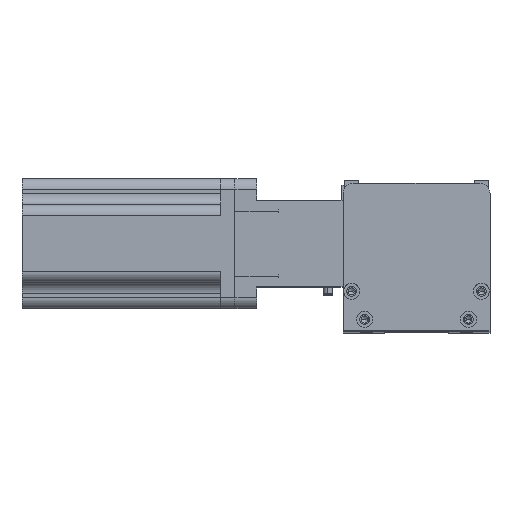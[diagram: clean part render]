
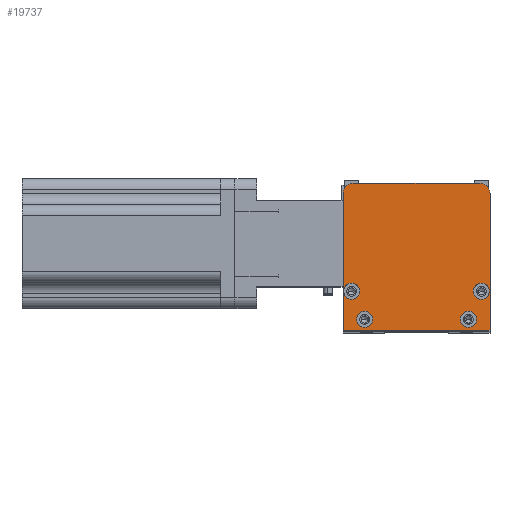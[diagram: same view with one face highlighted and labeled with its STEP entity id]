
A CAD part, top view. The second image highlights one B-rep face of the part: STEP entity #19737.
In plain terms, the highlighted planar face has unit normal (0, 0, 1) as drawn and (0, 0, -1) by its records, which use the part's own axes.
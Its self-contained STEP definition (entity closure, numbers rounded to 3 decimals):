
#205 = DIRECTION ( 'NONE',  ( -1., 0., 0. ) ) ;
#587 = EDGE_CURVE ( 'NONE', #25718, #3399, #11381, .T. ) ;
#795 = CARTESIAN_POINT ( 'NONE',  ( 0., 63., 0. ) ) ;
#893 = FACE_BOUND ( 'NONE', #15598, .T. ) ;
#1105 = EDGE_CURVE ( 'NONE', #3399, #25718, #7124, .T. ) ;
#1286 = CARTESIAN_POINT ( 'NONE',  ( 6.25, 5., 0. ) ) ;
#1416 = DIRECTION ( 'NONE',  ( -1., 0., 0. ) ) ;
#1670 = AXIS2_PLACEMENT_3D ( 'NONE', #5751, #5569, #5480 ) ;
#2336 = ORIENTED_EDGE ( 'NONE', *, *, #18460, .F. ) ;
#3399 = VERTEX_POINT ( 'NONE', #6413 ) ;
#3644 = AXIS2_PLACEMENT_3D ( 'NONE', #9919, #24618, #11991 ) ;
#3916 = EDGE_CURVE ( 'NONE', #13944, #18891, #15738, .T. ) ;
#4350 = ORIENTED_EDGE ( 'NONE', *, *, #587, .F. ) ;
#4739 = CARTESIAN_POINT ( 'NONE',  ( 60.25, 18., 0. ) ) ;
#5122 = VERTEX_POINT ( 'NONE', #8987 ) ;
#5180 = CARTESIAN_POINT ( 'NONE',  ( 5., 63., 0. ) ) ;
#5187 = EDGE_CURVE ( 'NONE', #10837, #14242, #19841, .T. ) ;
#5480 = DIRECTION ( 'NONE',  ( -1., 0., 0. ) ) ;
#5569 = DIRECTION ( 'NONE',  ( 0., 0., -1. ) ) ;
#5751 = CARTESIAN_POINT ( 'NONE',  ( 4., 18., 0. ) ) ;
#6341 = FACE_BOUND ( 'NONE', #22123, .T. ) ;
#6405 = CARTESIAN_POINT ( 'NONE',  ( 61.75, 5., 0. ) ) ;
#6413 = CARTESIAN_POINT ( 'NONE',  ( 7.75, 18., 0. ) ) ;
#6463 = ORIENTED_EDGE ( 'NONE', *, *, #3916, .F. ) ;
#7083 = VERTEX_POINT ( 'NONE', #4739 ) ;
#7098 = PLANE ( 'NONE',  #10493 ) ;
#7124 = CIRCLE ( 'NONE', #1670, 3.75 ) ;
#7279 = DIRECTION ( 'NONE',  ( 1., 0., 0. ) ) ;
#8094 = CARTESIAN_POINT ( 'NONE',  ( 58., 5., 0. ) ) ;
#8987 = CARTESIAN_POINT ( 'NONE',  ( 54.25, 5., 0. ) ) ;
#9181 = CARTESIAN_POINT ( 'NONE',  ( 0., 0., 0. ) ) ;
#9363 = CARTESIAN_POINT ( 'NONE',  ( 68., 0., 0. ) ) ;
#9413 = CARTESIAN_POINT ( 'NONE',  ( 64., 18., 0. ) ) ;
#9620 = CARTESIAN_POINT ( 'NONE',  ( 0., 0., 0. ) ) ;
#9825 = VERTEX_POINT ( 'NONE', #11536 ) ;
#9919 = CARTESIAN_POINT ( 'NONE',  ( 10., 5., 0. ) ) ;
#10175 = DIRECTION ( 'NONE',  ( -1., 0., 0. ) ) ;
#10310 = ORIENTED_EDGE ( 'NONE', *, *, #14151, .F. ) ;
#10314 = AXIS2_PLACEMENT_3D ( 'NONE', #9413, #24094, #11492 ) ;
#10493 = AXIS2_PLACEMENT_3D ( 'NONE', #9181, #15432, #11254 ) ;
#10743 = DIRECTION ( 'NONE',  ( -1., 0., 0. ) ) ;
#10837 = VERTEX_POINT ( 'NONE', #795 ) ;
#11071 = DIRECTION ( 'NONE',  ( 0., 0., -1. ) ) ;
#11181 = FACE_OUTER_BOUND ( 'NONE', #20476, .T. ) ;
#11254 = DIRECTION ( 'NONE',  ( 1., 0., 0. ) ) ;
#11381 = CIRCLE ( 'NONE', #26998, 3.75 ) ;
#11492 = DIRECTION ( 'NONE',  ( -1., 0., 0. ) ) ;
#11536 = CARTESIAN_POINT ( 'NONE',  ( 67.75, 18., 0. ) ) ;
#11651 = ORIENTED_EDGE ( 'NONE', *, *, #19552, .F. ) ;
#11743 = AXIS2_PLACEMENT_3D ( 'NONE', #26391, #13798, #1416 ) ;
#11924 = EDGE_CURVE ( 'NONE', #7083, #9825, #25257, .T. ) ;
#11991 = DIRECTION ( 'NONE',  ( -1., 0., 0. ) ) ;
#12240 = DIRECTION ( 'NONE',  ( 0., 0., -1. ) ) ;
#12334 = ORIENTED_EDGE ( 'NONE', *, *, #21286, .F. ) ;
#12387 = AXIS2_PLACEMENT_3D ( 'NONE', #25144, #12519, #205 ) ;
#12519 = DIRECTION ( 'NONE',  ( 0., 0., -1. ) ) ;
#13396 = ORIENTED_EDGE ( 'NONE', *, *, #15176, .T. ) ;
#13547 = DIRECTION ( 'NONE',  ( 1., 0., 0. ) ) ;
#13629 = ORIENTED_EDGE ( 'NONE', *, *, #19787, .F. ) ;
#13660 = DIRECTION ( 'NONE',  ( 0., 1., 0. ) ) ;
#13733 = CIRCLE ( 'NONE', #19297, 3.75 ) ;
#13798 = DIRECTION ( 'NONE',  ( 0., 0., -1. ) ) ;
#13944 = VERTEX_POINT ( 'NONE', #1286 ) ;
#13991 = EDGE_CURVE ( 'NONE', #23711, #20436, #16956, .T. ) ;
#14090 = VECTOR ( 'NONE', #26427, 1000. ) ;
#14151 = EDGE_CURVE ( 'NONE', #9825, #7083, #14291, .T. ) ;
#14173 = CARTESIAN_POINT ( 'NONE',  ( 5., 68., 0. ) ) ;
#14226 = DIRECTION ( 'NONE',  ( 0., 0., -1. ) ) ;
#14242 = VERTEX_POINT ( 'NONE', #14173 ) ;
#14291 = CIRCLE ( 'NONE', #11743, 3.75 ) ;
#14640 = ORIENTED_EDGE ( 'NONE', *, *, #11924, .F. ) ;
#14876 = EDGE_CURVE ( 'NONE', #18891, #13944, #26414, .T. ) ;
#15056 = VECTOR ( 'NONE', #10743, 1000. ) ;
#15176 = EDGE_CURVE ( 'NONE', #18692, #20436, #19189, .T. ) ;
#15420 = DIRECTION ( 'NONE',  ( -1., 0., 0. ) ) ;
#15432 = DIRECTION ( 'NONE',  ( 0., 0., 1. ) ) ;
#15501 = VECTOR ( 'NONE', #13547, 1000. ) ;
#15598 = EDGE_LOOP ( 'NONE', ( #4350, #26767 ) ) ;
#15643 = CARTESIAN_POINT ( 'NONE',  ( 4., 18., 0. ) ) ;
#15738 = CIRCLE ( 'NONE', #26351, 3.75 ) ;
#16888 = EDGE_LOOP ( 'NONE', ( #14640, #10310 ) ) ;
#16956 = LINE ( 'NONE', #18056, #22542 ) ;
#17502 = FACE_BOUND ( 'NONE', #16888, .T. ) ;
#17720 = CARTESIAN_POINT ( 'NONE',  ( 0., 0., 0. ) ) ;
#18056 = CARTESIAN_POINT ( 'NONE',  ( 68., 0., 0. ) ) ;
#18278 = CARTESIAN_POINT ( 'NONE',  ( 13.75, 5., 0. ) ) ;
#18460 = EDGE_CURVE ( 'NONE', #26641, #5122, #13733, .T. ) ;
#18557 = AXIS2_PLACEMENT_3D ( 'NONE', #23657, #11071, #25778 ) ;
#18692 = VERTEX_POINT ( 'NONE', #21439 ) ;
#18698 = ORIENTED_EDGE ( 'NONE', *, *, #13991, .F. ) ;
#18891 = VERTEX_POINT ( 'NONE', #18278 ) ;
#19189 = CIRCLE ( 'NONE', #18557, 5. ) ;
#19297 = AXIS2_PLACEMENT_3D ( 'NONE', #8094, #22755, #10175 ) ;
#19552 = EDGE_CURVE ( 'NONE', #5122, #26641, #26338, .T. ) ;
#19737 = ADVANCED_FACE ( 'NONE', ( #17502, #893, #6341, #22397, #11181 ), #7098, .F. ) ;
#19787 = EDGE_CURVE ( 'NONE', #23868, #23711, #26661, .T. ) ;
#19827 = DIRECTION ( 'NONE',  ( 0., 0., -1. ) ) ;
#19841 = CIRCLE ( 'NONE', #20405, 5. ) ;
#20153 = CARTESIAN_POINT ( 'NONE',  ( 68., 63., 0. ) ) ;
#20340 = LINE ( 'NONE', #9620, #14090 ) ;
#20405 = AXIS2_PLACEMENT_3D ( 'NONE', #5180, #19827, #7279 ) ;
#20436 = VERTEX_POINT ( 'NONE', #20153 ) ;
#20476 = EDGE_LOOP ( 'NONE', ( #12334, #24060, #25749, #13396, #18698, #13629 ) ) ;
#21286 = EDGE_CURVE ( 'NONE', #10837, #23868, #20340, .T. ) ;
#21414 = EDGE_LOOP ( 'NONE', ( #11651, #2336 ) ) ;
#21439 = CARTESIAN_POINT ( 'NONE',  ( 63., 68., 0. ) ) ;
#22123 = EDGE_LOOP ( 'NONE', ( #6463, #25974 ) ) ;
#22267 = EDGE_CURVE ( 'NONE', #18692, #14242, #25572, .T. ) ;
#22397 = FACE_BOUND ( 'NONE', #21414, .T. ) ;
#22542 = VECTOR ( 'NONE', #13660, 1000. ) ;
#22558 = CARTESIAN_POINT ( 'NONE',  ( 0.25, 18., 0. ) ) ;
#22755 = DIRECTION ( 'NONE',  ( 0., 0., -1. ) ) ;
#23657 = CARTESIAN_POINT ( 'NONE',  ( 63., 63., 0. ) ) ;
#23711 = VERTEX_POINT ( 'NONE', #25459 ) ;
#23868 = VERTEX_POINT ( 'NONE', #17720 ) ;
#24060 = ORIENTED_EDGE ( 'NONE', *, *, #5187, .T. ) ;
#24094 = DIRECTION ( 'NONE',  ( 0., 0., -1. ) ) ;
#24618 = DIRECTION ( 'NONE',  ( 0., 0., -1. ) ) ;
#24868 = CARTESIAN_POINT ( 'NONE',  ( 10., 5., 0. ) ) ;
#25144 = CARTESIAN_POINT ( 'NONE',  ( 58., 5., 0. ) ) ;
#25257 = CIRCLE ( 'NONE', #10314, 3.75 ) ;
#25431 = CARTESIAN_POINT ( 'NONE',  ( 68., 68., 0. ) ) ;
#25459 = CARTESIAN_POINT ( 'NONE',  ( 68., 0., 0. ) ) ;
#25572 = LINE ( 'NONE', #25431, #15056 ) ;
#25718 = VERTEX_POINT ( 'NONE', #22558 ) ;
#25749 = ORIENTED_EDGE ( 'NONE', *, *, #22267, .F. ) ;
#25778 = DIRECTION ( 'NONE',  ( 1., 0., 0. ) ) ;
#25974 = ORIENTED_EDGE ( 'NONE', *, *, #14876, .F. ) ;
#26338 = CIRCLE ( 'NONE', #12387, 3.75 ) ;
#26351 = AXIS2_PLACEMENT_3D ( 'NONE', #24868, #12240, #26990 ) ;
#26391 = CARTESIAN_POINT ( 'NONE',  ( 64., 18., 0. ) ) ;
#26414 = CIRCLE ( 'NONE', #3644, 3.75 ) ;
#26427 = DIRECTION ( 'NONE',  ( 0., -1., 0. ) ) ;
#26641 = VERTEX_POINT ( 'NONE', #6405 ) ;
#26661 = LINE ( 'NONE', #9363, #15501 ) ;
#26767 = ORIENTED_EDGE ( 'NONE', *, *, #1105, .F. ) ;
#26990 = DIRECTION ( 'NONE',  ( -1., 0., 0. ) ) ;
#26998 = AXIS2_PLACEMENT_3D ( 'NONE', #15643, #14226, #15420 ) ;
